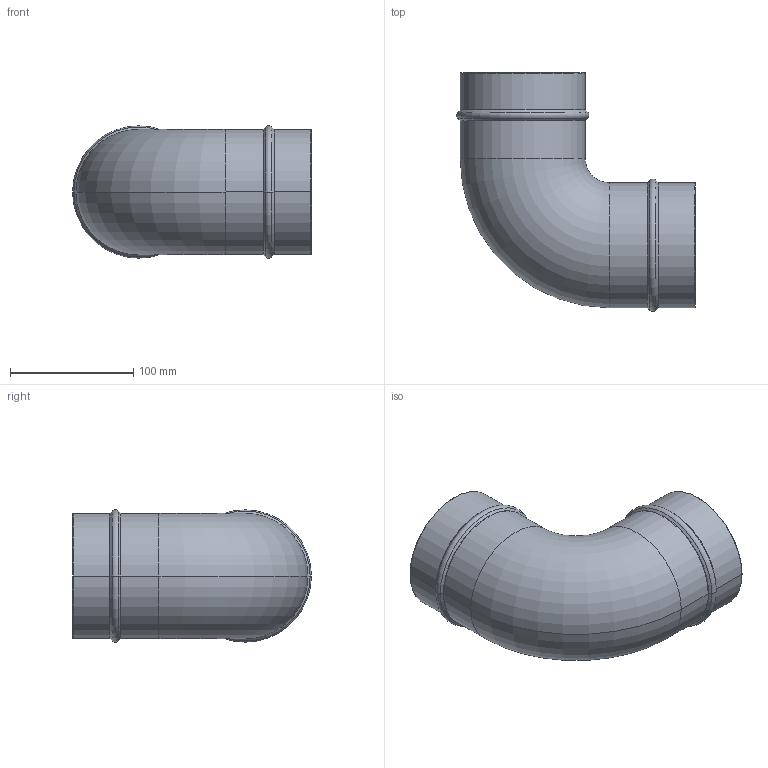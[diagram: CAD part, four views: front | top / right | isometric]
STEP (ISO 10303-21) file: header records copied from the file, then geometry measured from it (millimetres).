
FILE_DESCRIPTION((''),'2;1');
FILE_NAME('2014800300','2017-05-09T',('Administrator'),(''),'PRO/ENGINEER BY PARAMETRIC TECHNOLOGY CORPORATION, 2009360','PRO/ENGINEER BY PARAMETRIC TECHNOLOGY CORPORATION, 2009360','');
FILE_SCHEMA(('AUTOMOTIVE_DESIGN_CC2 { 1 2 10303 214 -1 1 5 2 }'));
Length unit declared in the file: millimetre
Products named in the file (1): 2014800300
Bounding box: 193.69 x 193.69 x 107.37 mm (x, y, z)
Volume: 353655 mm3; surface area: 156530.5 mm2
Topology: 1 solids, 1 shells, 42 faces, 84 edges, 44 vertices
Faces by surface type: torus 20, cylinder 12, cone 8, plane 2
Entity records: 1371 total; most frequent: DIRECTION 232, CARTESIAN_POINT 170, ORIENTED_EDGE 168, AXIS2_PLACEMENT_3D 106, PRESENTATION_STYLE_ASSIGNMENT 85, STYLED_ITEM 85, CURVE_STYLE 84, EDGE_CURVE 84
